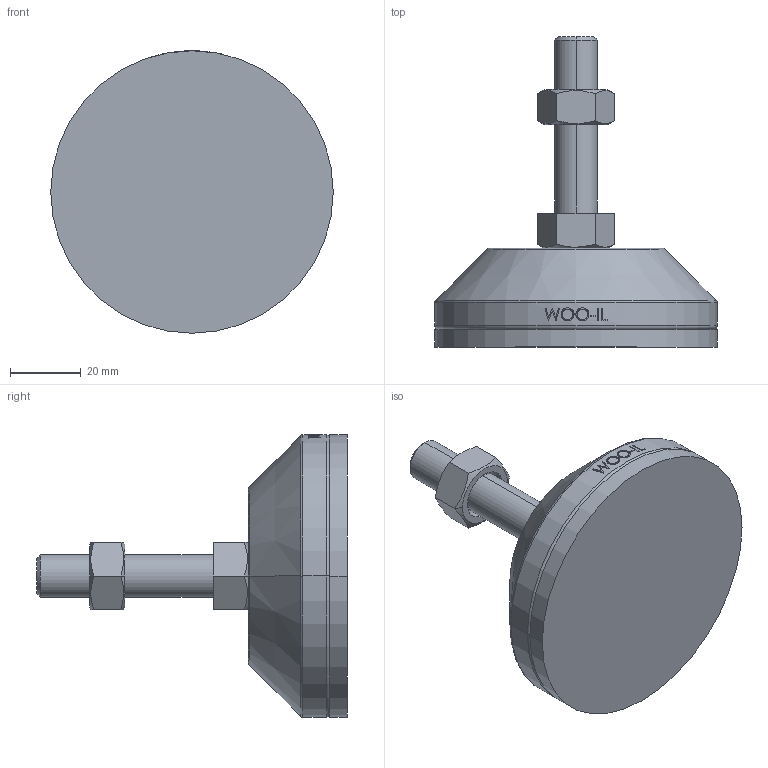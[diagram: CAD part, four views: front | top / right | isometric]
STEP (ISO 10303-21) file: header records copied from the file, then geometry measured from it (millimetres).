
FILE_DESCRIPTION (( 'STEP AP214' ), '1' );
FILE_NAME ('NHNR80-M12-50.step', '2021-01-25T06:21:15', ( '' ), ( '' ), 'SwSTEP 2.0', 'SolidWorks 2019', '' );
FILE_SCHEMA (( 'AUTOMOTIVE_DESIGN' ));
Length unit declared in the file: millimetre
Products named in the file (2): NHNR80-M12-50
Bounding box: 80 x 88 x 80 mm (x, y, z)
Volume: 125917 mm3; surface area: 29274.3 mm2
Topology: 4 solids, 4 shells, 105 faces, 239 edges, 152 vertices
Faces by surface type: plane 49, cylinder 18, bspline 16, cone 14, torus 8
Entity records: 4363 total; most frequent: CARTESIAN_POINT 2046, ORIENTED_EDGE 478, DIRECTION 429, EDGE_CURVE 239, AXIS2_PLACEMENT_3D 165, VERTEX_POINT 152, EDGE_LOOP 117, FACE_OUTER_BOUND 105
